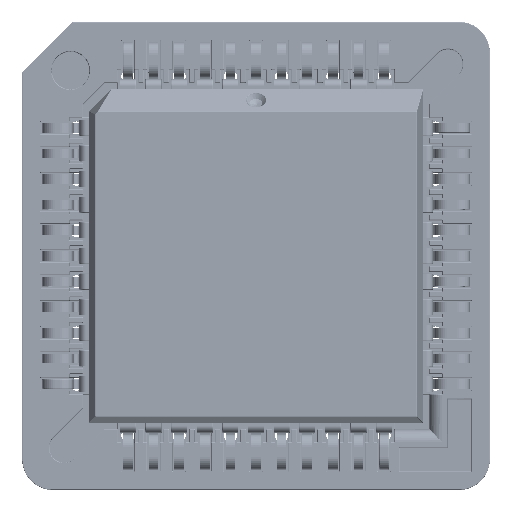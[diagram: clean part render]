
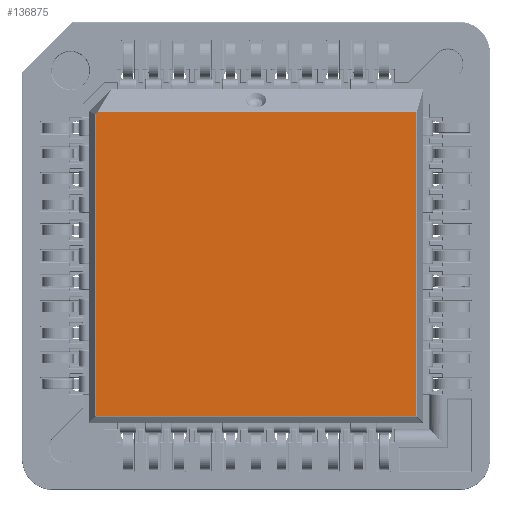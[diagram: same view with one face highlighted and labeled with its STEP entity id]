
A CAD part, top view. The second image highlights one B-rep face of the part: STEP entity #136875.
In plain terms, the highlighted planar face has unit normal (0, 0, 1).
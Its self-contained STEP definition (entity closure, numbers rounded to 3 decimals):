
#5496=PLANE('',#154226);
#13747=FACE_OUTER_BOUND('',#22141,.T.);
#22141=EDGE_LOOP('',(#116627,#116628,#116629,#116630,#116631));
#31426=LINE('',#242936,#40639);
#31433=LINE('',#242960,#40646);
#31436=LINE('',#242988,#40649);
#31438=LINE('',#242991,#40651);
#31446=LINE('',#243009,#40659);
#40639=VECTOR('',#197668,10.);
#40646=VECTOR('',#197695,10.);
#40649=VECTOR('',#197712,10.);
#40651=VECTOR('',#197716,10.);
#40659=VECTOR('',#197734,10.);
#60382=VERTEX_POINT('',#242898);
#60389=VERTEX_POINT('',#242922);
#60392=VERTEX_POINT('',#242929);
#60398=VERTEX_POINT('',#242946);
#60403=VERTEX_POINT('',#242963);
#79264=EDGE_CURVE('',#60392,#60382,#31426,.T.);
#79277=EDGE_CURVE('',#60389,#60398,#31433,.T.);
#79285=EDGE_CURVE('',#60398,#60403,#31436,.T.);
#79287=EDGE_CURVE('',#60403,#60392,#31438,.T.);
#79297=EDGE_CURVE('',#60382,#60389,#31446,.T.);
#116627=ORIENTED_EDGE('',*,*,#79277,.F.);
#116628=ORIENTED_EDGE('',*,*,#79297,.F.);
#116629=ORIENTED_EDGE('',*,*,#79264,.F.);
#116630=ORIENTED_EDGE('',*,*,#79287,.F.);
#116631=ORIENTED_EDGE('',*,*,#79285,.F.);
#136875=ADVANCED_FACE('',(#13747),#5496,.T.);
#154226=AXIS2_PLACEMENT_3D('',#243056,#197795,#197796);
#197668=DIRECTION('',(-1.,0.,0.));
#197695=DIRECTION('',(0.707,0.707,0.));
#197712=DIRECTION('',(1.,0.,0.));
#197716=DIRECTION('',(0.,-1.,0.));
#197734=DIRECTION('',(0.,1.,0.));
#197795=DIRECTION('center_axis',(0.,0.,1.));
#197796=DIRECTION('ref_axis',(1.,0.,0.));
#242898=CARTESIAN_POINT('',(-7.952,-7.952,3.875));
#242922=CARTESIAN_POINT('',(-7.952,7.009,3.875));
#242929=CARTESIAN_POINT('',(7.952,-7.952,3.875));
#242936=CARTESIAN_POINT('',(-4.147,-7.952,3.875));
#242946=CARTESIAN_POINT('',(-7.822,7.139,3.875));
#242960=CARTESIAN_POINT('',(-7.338,7.623,3.875));
#242963=CARTESIAN_POINT('',(7.952,7.139,3.875));
#242988=CARTESIAN_POINT('',(4.147,7.139,3.875));
#242991=CARTESIAN_POINT('',(7.952,4.147,3.875));
#243009=CARTESIAN_POINT('',(-7.952,4.147,3.875));
#243056=CARTESIAN_POINT('Origin',(0.,0.,3.875));
